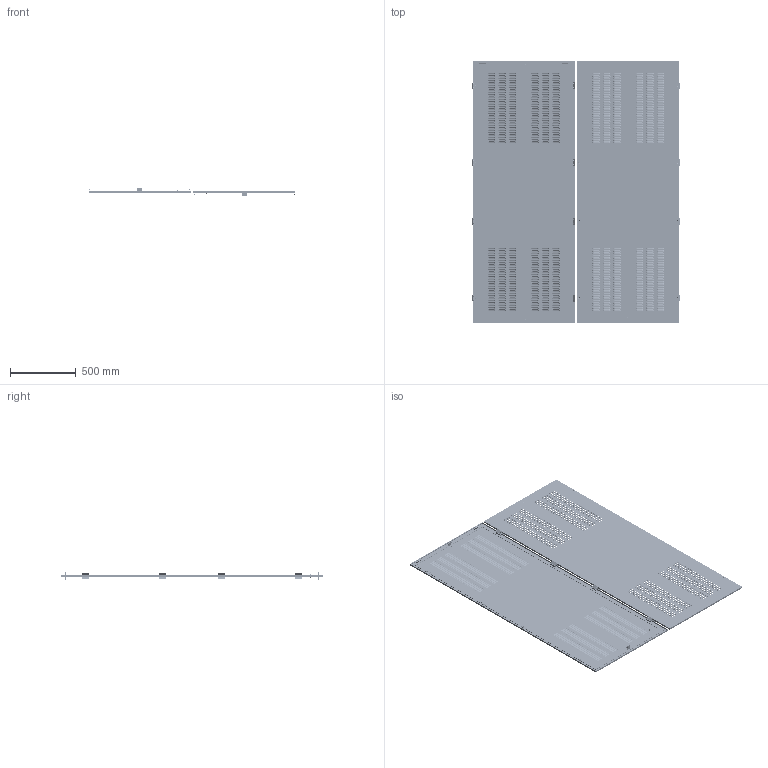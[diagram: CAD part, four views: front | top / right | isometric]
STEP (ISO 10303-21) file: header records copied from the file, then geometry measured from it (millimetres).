
FILE_DESCRIPTION (( 'STEP AP214' ), '1' );
FILE_NAME ('YKM40D-FO-SP-200-080-54 Ïàíåëü áîêîâàÿ 2000õ800 ìì IP54 (êîìïë).STEP', '2025-08-20T09:01:06', ( '' ), ( '' ), 'SwSTEP 2.0', 'SolidWorks 2023', '' );
FILE_SCHEMA (( 'AUTOMOTIVE_DESIGN' ));
Products named in the file (2): YKM40D-FO-SP-200-080-54 Панель боковая 2000х800 мм IP54; YKM40D-FO-SP-200-080-54 Панель боковая 2000х800 мм IP54 (компл)
Assembly tree (2 placements, depth 2):
  YKM40D-FO-SP-200-080-54 Панель боковая 2000х800 мм IP54 (компл)
    YKM40D-FO-SP-200-080-54 Панель боковая 2000х800 мм IP54  x2
Bounding box: 1577.95 x 2000 x 60.86 mm (x, y, z)
Volume: 5263481.9 mm3; surface area: 6938659.4 mm2
Topology: 2 solids, 2 shells, 14294 faces, 37554 edges, 23430 vertices
Faces by surface type: torus 5504, plane 4184, cylinder 4118, cone 488
Entity records: 225780 total; most frequent: DIRECTION 45070, CARTESIAN_POINT 37659, ORIENTED_EDGE 37554, AXIS2_PLACEMENT_3D 19146, EDGE_CURVE 18777, CIRCLE 11994, VERTEX_POINT 11715, EDGE_LOOP 7982
